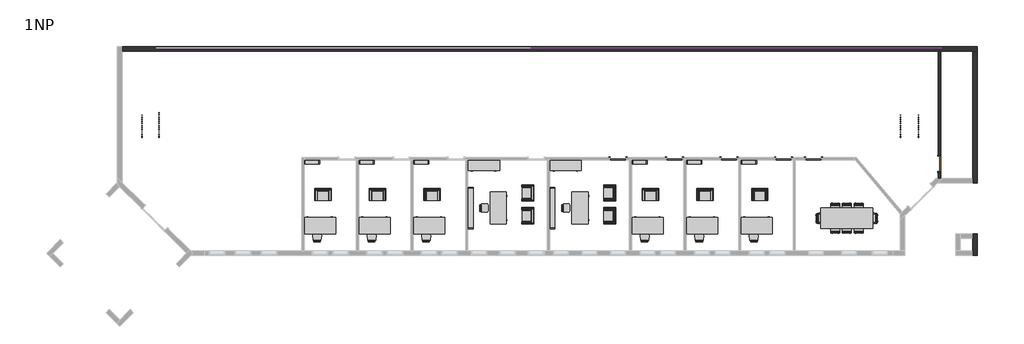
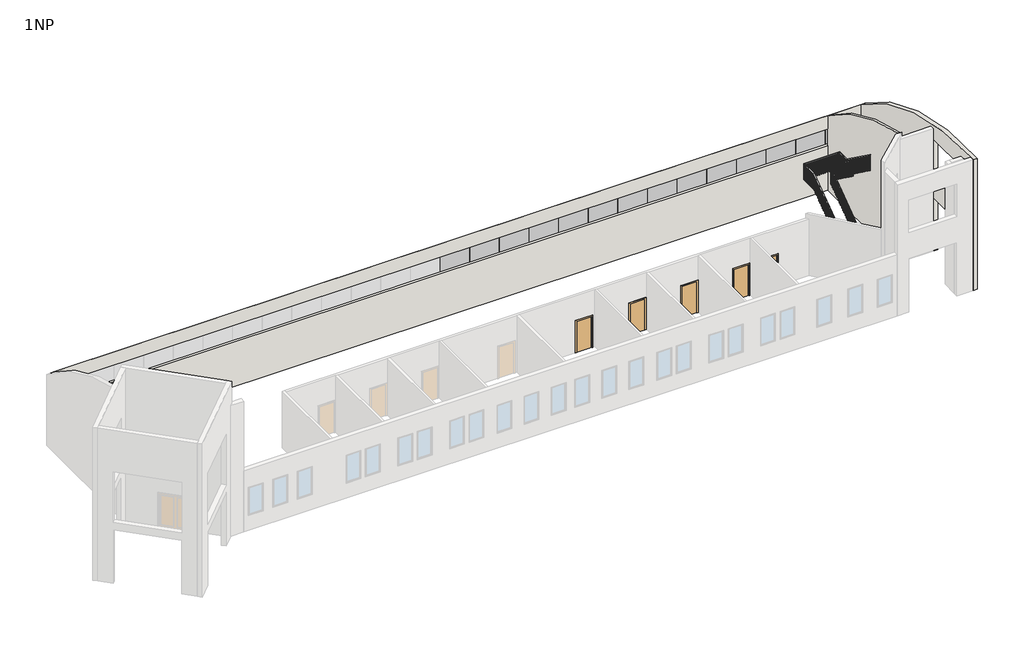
# One storey, part 3 of 3: 45 furniture elements, 14 plates, 6 doors, 4 railings, 3 walls.
"""IFC4 building model written with IfcOpenShell, lengths in millimetres."""

from ifc_helpers import new_model, si_unit, point, frame, frame_2d, origin, place, context, project, spatial, polyline, circle_curve, trimmed, segment, composite_curve, outline, extrude, transform, mapped, element, save
from ifc_brep_helpers import plane_surface, cylinder_surface, advanced_brep
from components import m_single_flush_0915_x_2032mm_1012e85d, m_single_flush_0915_x_2032mm_d7cd756b, chair_desk_4_chair_task_arms_3b363349, chair_desk_5_chair_task_b7f3823b, m_chair_corbu_m_chair_corbu_2764bdef, m_chair_desk_desk_chair_ccc35c8f, m_credenza_1830_x_0610mm_1080a9db, m_desk_1830_x_915mm_d81ff609, m_shelving_0915_x_0254_x_1830mm_1d5e155e, m_shelving_2440_x_0305_x_2134mm_59c1a9e4, table_conference_w_chairs_1200_x_3050mm_930714f4, system_panel_glazed_e7f7cd54, system_panel_glazed_2bdfee25, railing_1100mm_7da75a1e, railing_1100mm_276dff7a, railing_1100mm_749a05fc, railing_1100mm_07c990a1

model = new_model("IFC4")

# Units and contexts
model_context = context("Model", 3, world=origin())
ifc_project = project(units=[si_unit("LENGTHUNIT", "METRE", prefix="MILLI")], contexts=[model_context])

# Site, building, storey
site = spatial("IfcSite", under=ifc_project)
building = spatial("IfcBuilding", under=site)
storey = spatial("IfcBuildingStorey", under=building, Name="1NP", Elevation=0.0)

# Doors
placement = place(None, origin())
m_single_flush_0915_x_2032mm_shape = m_single_flush_0915_x_2032mm_1012e85d(model_context)
element("IfcDoor", 1, ObjectType="M_Single-Flush : 0915 x 2032mm", at=placement, inside=storey, context=model_context, shape_type="MappedRepresentation", body=[
    mapped(m_single_flush_0915_x_2032mm_shape, transform((24162.4255273, 791.5551306, 0.0), x_axis=(1.0, 0.0, 0.0), y_axis=(0.0, 1.0, 0.0), z_axis=(0.0, 0.0, 1.0))),
])
element("IfcDoor", 2, ObjectType="M_Single-Flush : 0915 x 2032mm", at=placement, inside=storey, context=model_context, shape_type="MappedRepresentation", body=[
    mapped(m_single_flush_0915_x_2032mm_shape, transform((27362.4255273, 791.5551306, 0.0), x_axis=(1.0, 0.0, 0.0), y_axis=(0.0, 1.0, 0.0), z_axis=(0.0, 0.0, 1.0))),
])
element("IfcDoor", 3, ObjectType="M_Single-Flush : 0915 x 2032mm", at=placement, inside=storey, context=model_context, shape_type="MappedRepresentation", body=[
    mapped(m_single_flush_0915_x_2032mm_shape, transform((20962.4255273, 791.5551306, 0.0), x_axis=(1.0, 0.0, 0.0), y_axis=(0.0, 1.0, 0.0), z_axis=(0.0, 0.0, 1.0))),
])
element("IfcDoor", 4, ObjectType="M_Single-Flush : 0915 x 2032mm", at=placement, inside=storey, context=model_context, shape_type="MappedRepresentation", body=[
    mapped(m_single_flush_0915_x_2032mm_shape, transform((17662.4255273, 791.5551306, 0.0), x_axis=(1.0, 0.0, 0.0), y_axis=(0.0, 1.0, 0.0), z_axis=(0.0, 0.0, 1.0))),
])
m_single_flush_0915_x_2032mm_2_shape = m_single_flush_0915_x_2032mm_d7cd756b(model_context)
element("IfcDoor", 5, ObjectType="M_Single-Flush : 0915 x 2032mm", at=placement, inside=storey, context=model_context, shape_type="MappedRepresentation", body=[
    mapped(m_single_flush_0915_x_2032mm_2_shape, transform((36489.1755273, 482.5551306, 0.0), x_axis=(0.0, -1.0, 0.0), y_axis=(1.0, 0.0, 0.0), z_axis=(0.0, 0.0, 1.0))),
])
element("IfcDoor", 6, ObjectType="M_Single-Flush : 0915 x 2032mm", at=placement, inside=storey, context=model_context, shape_type="MappedRepresentation", body=[
    mapped(m_single_flush_0915_x_2032mm_2_shape, transform((29115.9255273, 791.5551306, 0.0), x_axis=(-1.0, 0.0, 0.0), y_axis=(0.0, -1.0, 0.0), z_axis=(0.0, 0.0, 1.0))),
])

# Furniture
chair_desk_4_chair_task_arms_shape = chair_desk_4_chair_task_arms_3b363349(model_context)
element("IfcFurniture", 7, ObjectType="Chair - Desk (4) : Chair-Task Arms", at=placement, inside=storey, context=model_context, shape_type="MappedRepresentation", body=[
    mapped(chair_desk_4_chair_task_arms_shape, transform((32615.6301008, -2847.5591131, 0.0), x_axis=(0.0, 1.0, 0.0), y_axis=(-1.0, 0.0, 0.0), z_axis=(0.0, 0.0, 1.0))),
])
element("IfcFurniture", 8, ObjectType="Chair - Desk (4) : Chair-Task Arms", at=placement, inside=storey, context=model_context, shape_type="MappedRepresentation", body=[
    mapped(chair_desk_4_chair_task_arms_shape, transform((29527.7382975, -2565.5774738, 0.0), x_axis=(0.0, -1.0000000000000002, 0.0), y_axis=(1.0000000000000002, 0.0, 0.0), z_axis=(0.0, 0.0, 1.0))),
])
chair_desk_5_chair_task_shape = chair_desk_5_chair_task_b7f3823b(model_context)
element("IfcFurniture", 9, ObjectType="Chair - Desk (5) : Chair-Task", at=placement, inside=storey, context=model_context, shape_type="MappedRepresentation", body=[
    mapped(chair_desk_5_chair_task_shape, transform((31897.6750188, -2087.6223918, 0.0), x_axis=(-1.0, 0.0, 0.0), y_axis=(0.0, -1.0, 0.0), z_axis=(0.0, 0.0, 1.0))),
])
element("IfcFurniture", 10, ObjectType="Chair - Desk (5) : Chair-Task", at=placement, inside=storey, context=model_context, shape_type="MappedRepresentation", body=[
    mapped(chair_desk_5_chair_task_shape, transform((31615.6933794, -3325.5141951, 0.0), x_axis=(1.0, 0.0, 0.0), y_axis=(0.0, 1.0, 0.0), z_axis=(0.0, 0.0, 1.0))),
])
element("IfcFurniture", 11, ObjectType="Chair - Desk (5) : Chair-Task", at=placement, inside=storey, context=model_context, shape_type="MappedRepresentation", body=[
    mapped(chair_desk_5_chair_task_shape, transform((30527.9250188, -2087.6223918, 0.0), x_axis=(-1.0, 0.0, 0.0), y_axis=(0.0, -1.0, 0.0), z_axis=(0.0, 0.0, 1.0))),
])
element("IfcFurniture", 12, ObjectType="Chair - Desk (5) : Chair-Task", at=placement, inside=storey, context=model_context, shape_type="MappedRepresentation", body=[
    mapped(chair_desk_5_chair_task_shape, transform((30245.9433794, -3325.5141951, 0.0), x_axis=(1.0, 0.0, 0.0), y_axis=(0.0, 1.0, 0.0), z_axis=(0.0, 0.0, 1.0))),
])
element("IfcFurniture", 13, ObjectType="Chair - Desk (5) : Chair-Task", at=placement, inside=storey, context=model_context, shape_type="MappedRepresentation", body=[
    mapped(chair_desk_5_chair_task_shape, transform((31212.8000188, -2087.6223918, 0.0), x_axis=(-1.0, 0.0, 0.0), y_axis=(0.0, -1.0, 0.0), z_axis=(0.0, 0.0, 1.0))),
])
element("IfcFurniture", 14, ObjectType="Chair - Desk (5) : Chair-Task", at=placement, inside=storey, context=model_context, shape_type="MappedRepresentation", body=[
    mapped(chair_desk_5_chair_task_shape, transform((30930.8183794, -3325.5141951, 0.0), x_axis=(1.0, 0.0, 0.0), y_axis=(0.0, 1.0, 0.0), z_axis=(0.0, 0.0, 1.0))),
])
m_chair_corbu_m_chair_corbu_shape = m_chair_corbu_m_chair_corbu_2764bdef(model_context)
element("IfcFurniture", 15, ObjectType="M_Chair-Corbu : M_Chair-Corbu", at=placement, inside=storey, context=model_context, shape_type="MappedRepresentation", body=[
    mapped(m_chair_corbu_m_chair_corbu_shape, transform((6189.3517568, -1787.3719186, 0.0), x_axis=(1.0, 0.0, 0.0), y_axis=(0.0, 1.0, 0.0), z_axis=(0.0, 0.0, 1.0))),
])
element("IfcFurniture", 16, ObjectType="M_Chair-Corbu : M_Chair-Corbu", at=placement, inside=storey, context=model_context, shape_type="MappedRepresentation", body=[
    mapped(m_chair_corbu_m_chair_corbu_shape, transform((-210.6482432, -1787.3719186, 0.0), x_axis=(1.0, 0.0, 0.0), y_axis=(0.0, 1.0, 0.0), z_axis=(0.0, 0.0, 1.0))),
])
element("IfcFurniture", 17, ObjectType="M_Chair-Corbu : M_Chair-Corbu", at=placement, inside=storey, context=model_context, shape_type="MappedRepresentation", body=[
    mapped(m_chair_corbu_m_chair_corbu_shape, transform((2989.3517568, -1787.3719186, 0.0), x_axis=(1.0, 0.0, 0.0), y_axis=(0.0, 1.0, 0.0), z_axis=(0.0, 0.0, 1.0))),
])
element("IfcFurniture", 18, ObjectType="M_Chair-Corbu : M_Chair-Corbu", at=placement, inside=storey, context=model_context, shape_type="MappedRepresentation", body=[
    mapped(m_chair_corbu_m_chair_corbu_shape, transform((22189.3517568, -1787.3719186, 0.0), x_axis=(1.0, 0.0, 0.0), y_axis=(0.0, 1.0, 0.0), z_axis=(0.0, 0.0, 1.0))),
])
element("IfcFurniture", 19, ObjectType="M_Chair-Corbu : M_Chair-Corbu", at=placement, inside=storey, context=model_context, shape_type="MappedRepresentation", body=[
    mapped(m_chair_corbu_m_chair_corbu_shape, transform((25389.3517568, -1787.3719186, 0.0), x_axis=(1.0, 0.0, 0.0), y_axis=(0.0, 1.0, 0.0), z_axis=(0.0, 0.0, 1.0))),
])
element("IfcFurniture", 20, ObjectType="M_Chair-Corbu : M_Chair-Corbu", at=placement, inside=storey, context=model_context, shape_type="MappedRepresentation", body=[
    mapped(m_chair_corbu_m_chair_corbu_shape, transform((11895.9484781, -647.2210989, 0.0), x_axis=(0.0, -1.0, 0.0), y_axis=(1.0, 0.0, 0.0), z_axis=(0.0, 0.0, 1.0))),
])
element("IfcFurniture", 21, ObjectType="M_Chair-Corbu : M_Chair-Corbu", at=placement, inside=storey, context=model_context, shape_type="MappedRepresentation", body=[
    mapped(m_chair_corbu_m_chair_corbu_shape, transform((18989.3517568, -1787.3719186, 0.0), x_axis=(1.0, 0.0, 0.0), y_axis=(0.0, 1.0, 0.0), z_axis=(0.0, 0.0, 1.0))),
])
element("IfcFurniture", 22, ObjectType="M_Chair-Corbu : M_Chair-Corbu", at=placement, inside=storey, context=model_context, shape_type="MappedRepresentation", body=[
    mapped(m_chair_corbu_m_chair_corbu_shape, transform((11895.9484781, -1992.4210989, 0.0), x_axis=(0.0, -1.0, 0.0), y_axis=(1.0, 0.0, 0.0), z_axis=(0.0, 0.0, 1.0))),
])
element("IfcFurniture", 23, ObjectType="M_Chair-Corbu : M_Chair-Corbu", at=placement, inside=storey, context=model_context, shape_type="MappedRepresentation", body=[
    mapped(m_chair_corbu_m_chair_corbu_shape, transform((16695.9484781, -647.2210989, 0.0), x_axis=(0.0, -1.0, 0.0), y_axis=(1.0, 0.0, 0.0), z_axis=(0.0, 0.0, 1.0))),
])
element("IfcFurniture", 24, ObjectType="M_Chair-Corbu : M_Chair-Corbu", at=placement, inside=storey, context=model_context, shape_type="MappedRepresentation", body=[
    mapped(m_chair_corbu_m_chair_corbu_shape, transform((16695.9484781, -1992.4210989, 0.0), x_axis=(0.0, -1.0, 0.0), y_axis=(1.0, 0.0, 0.0), z_axis=(0.0, 0.0, 1.0))),
])
m_chair_desk_desk_chair_shape = m_chair_desk_desk_chair_ccc35c8f(model_context)
element("IfcFurniture", 25, ObjectType="M_Chair-Desk : Desk Chair", at=placement, inside=storey, context=model_context, shape_type="MappedRepresentation", body=[
    mapped(m_chair_desk_desk_chair_shape, transform((19.9255273, -4017.6948694, 0.0), x_axis=(1.0, 0.0, 0.0), y_axis=(0.0, 1.0, 0.0), z_axis=(0.0, 0.0, 1.0))),
])
element("IfcFurniture", 26, ObjectType="M_Chair-Desk : Desk Chair", at=placement, inside=storey, context=model_context, shape_type="MappedRepresentation", body=[
    mapped(m_chair_desk_desk_chair_shape, transform((3219.9255273, -4017.6948694, 0.0), x_axis=(1.0, 0.0, 0.0), y_axis=(0.0, 1.0, 0.0), z_axis=(0.0, 0.0, 1.0))),
])
element("IfcFurniture", 27, ObjectType="M_Chair-Desk : Desk Chair", at=placement, inside=storey, context=model_context, shape_type="MappedRepresentation", body=[
    mapped(m_chair_desk_desk_chair_shape, transform((6419.9255273, -4017.6948694, 0.0), x_axis=(1.0, 0.0, 0.0), y_axis=(0.0, 1.0, 0.0), z_axis=(0.0, 0.0, 1.0))),
])
element("IfcFurniture", 28, ObjectType="M_Chair-Desk : Desk Chair", at=placement, inside=storey, context=model_context, shape_type="MappedRepresentation", body=[
    mapped(m_chair_desk_desk_chair_shape, transform((22419.9255273, -4017.6948694, 0.0), x_axis=(1.0, 0.0, 0.0), y_axis=(0.0, 1.0, 0.0), z_axis=(0.0, 0.0, 1.0))),
])
element("IfcFurniture", 29, ObjectType="M_Chair-Desk : Desk Chair", at=placement, inside=storey, context=model_context, shape_type="MappedRepresentation", body=[
    mapped(m_chair_desk_desk_chair_shape, transform((25619.9255273, -4017.6948694, 0.0), x_axis=(1.0, 0.0, 0.0), y_axis=(0.0, 1.0, 0.0), z_axis=(0.0, 0.0, 1.0))),
])
element("IfcFurniture", 30, ObjectType="M_Chair-Desk : Desk Chair", at=placement, inside=storey, context=model_context, shape_type="MappedRepresentation", body=[
    mapped(m_chair_desk_desk_chair_shape, transform((9635.1978774, -2107.9948694, 0.0), x_axis=(0.0, -1.0, 0.0), y_axis=(1.0, 0.0, 0.0), z_axis=(0.0, 0.0, 1.0))),
])
element("IfcFurniture", 31, ObjectType="M_Chair-Desk : Desk Chair", at=placement, inside=storey, context=model_context, shape_type="MappedRepresentation", body=[
    mapped(m_chair_desk_desk_chair_shape, transform((19219.9255273, -4017.6948694, 0.0), x_axis=(1.0, 0.0, 0.0), y_axis=(0.0, 1.0, 0.0), z_axis=(0.0, 0.0, 1.0))),
])
element("IfcFurniture", 32, ObjectType="M_Chair-Desk : Desk Chair", at=placement, inside=storey, context=model_context, shape_type="MappedRepresentation", body=[
    mapped(m_chair_desk_desk_chair_shape, transform((14435.1978774, -2107.9948694, 0.0), x_axis=(0.0, -1.0, 0.0), y_axis=(1.0, 0.0, 0.0), z_axis=(0.0, 0.0, 1.0))),
])
m_credenza_1830_x_0610mm_shape = m_credenza_1830_x_0610mm_1080a9db(model_context)
element("IfcFurniture", 33, ObjectType="M_Credenza : 1830 x 0610mm", at=placement, inside=storey, context=model_context, shape_type="MappedRepresentation", body=[
    mapped(m_credenza_1830_x_0610mm_shape, transform((9713.881265, 412.7248027, 0.0), x_axis=(1.0, 0.0, 0.0), y_axis=(0.0, 1.0, 0.0), z_axis=(0.0, 0.0, 1.0))),
])
element("IfcFurniture", 34, ObjectType="M_Credenza : 1830 x 0610mm", at=placement, inside=storey, context=model_context, shape_type="MappedRepresentation", body=[
    mapped(m_credenza_1830_x_0610mm_shape, transform((14513.881265, 412.7248027, 0.0), x_axis=(1.0, 0.0, 0.0), y_axis=(0.0, 1.0, 0.0), z_axis=(0.0, 0.0, 1.0))),
])
m_desk_1830_x_915mm_shape = m_desk_1830_x_915mm_d81ff609(model_context)
element("IfcFurniture", 35, ObjectType="M_Desk : 1830 x 915mm", at=placement, inside=storey, context=model_context, shape_type="MappedRepresentation", body=[
    mapped(m_desk_1830_x_915mm_shape, transform((-741.5744727, -3592.6948694, 0.0), x_axis=(1.0, 0.0, 0.0), y_axis=(0.0, 1.0, 0.0), z_axis=(0.0, 0.0, 1.0))),
])
element("IfcFurniture", 36, ObjectType="M_Desk : 1830 x 915mm", at=placement, inside=storey, context=model_context, shape_type="MappedRepresentation", body=[
    mapped(m_desk_1830_x_915mm_shape, transform((2458.4255273, -3592.6948694, 0.0), x_axis=(1.0, 0.0, 0.0), y_axis=(0.0, 1.0, 0.0), z_axis=(0.0, 0.0, 1.0))),
])
element("IfcFurniture", 37, ObjectType="M_Desk : 1830 x 915mm", at=placement, inside=storey, context=model_context, shape_type="MappedRepresentation", body=[
    mapped(m_desk_1830_x_915mm_shape, transform((5658.4255273, -3592.6948694, 0.0), x_axis=(1.0, 0.0, 0.0), y_axis=(0.0, 1.0, 0.0), z_axis=(0.0, 0.0, 1.0))),
])
element("IfcFurniture", 38, ObjectType="M_Desk : 1830 x 915mm", at=placement, inside=storey, context=model_context, shape_type="MappedRepresentation", body=[
    mapped(m_desk_1830_x_915mm_shape, transform((21658.4255273, -3592.6948694, 0.0), x_axis=(1.0, 0.0, 0.0), y_axis=(0.0, 1.0, 0.0), z_axis=(0.0, 0.0, 1.0))),
])
element("IfcFurniture", 39, ObjectType="M_Desk : 1830 x 915mm", at=placement, inside=storey, context=model_context, shape_type="MappedRepresentation", body=[
    mapped(m_desk_1830_x_915mm_shape, transform((24858.4255273, -3592.6948694, 0.0), x_axis=(1.0, 0.0, 0.0), y_axis=(0.0, 1.0, 0.0), z_axis=(0.0, 0.0, 1.0))),
])
element("IfcFurniture", 40, ObjectType="M_Desk : 1830 x 915mm", at=placement, inside=storey, context=model_context, shape_type="MappedRepresentation", body=[
    mapped(m_desk_1830_x_915mm_shape, transform((10176.162903, -1192.9948694, 0.0), x_axis=(0.0, -1.0, 0.0), y_axis=(1.0, 0.0, 0.0), z_axis=(0.0, 0.0, 1.0))),
])
element("IfcFurniture", 41, ObjectType="M_Desk : 1830 x 915mm", at=placement, inside=storey, context=model_context, shape_type="MappedRepresentation", body=[
    mapped(m_desk_1830_x_915mm_shape, transform((18458.4255273, -3592.6948694, 0.0), x_axis=(1.0, 0.0, 0.0), y_axis=(0.0, 1.0, 0.0), z_axis=(0.0, 0.0, 1.0))),
])
element("IfcFurniture", 42, ObjectType="M_Desk : 1830 x 915mm", at=placement, inside=storey, context=model_context, shape_type="MappedRepresentation", body=[
    mapped(m_desk_1830_x_915mm_shape, transform((14976.162903, -1192.9948694, 0.0), x_axis=(0.0, -1.0, 0.0), y_axis=(1.0, 0.0, 0.0), z_axis=(0.0, 0.0, 1.0))),
])
m_shelving_0915_x_0254_x_1830mm_shape = m_shelving_0915_x_0254_x_1830mm_1d5e155e(model_context)
element("IfcFurniture", 43, ObjectType="M_Shelving : 0915 x 0254 x 1830mm", at=placement, inside=storey, context=model_context, shape_type="MappedRepresentation", body=[
    mapped(m_shelving_0915_x_0254_x_1830mm_shape, transform((-284.0744727, 290.5051306, 0.0), x_axis=(-1.0, 0.0, 0.0), y_axis=(0.0, -1.0, 0.0), z_axis=(0.0, 0.0, 1.0))),
])
element("IfcFurniture", 44, ObjectType="M_Shelving : 0915 x 0254 x 1830mm", at=placement, inside=storey, context=model_context, shape_type="MappedRepresentation", body=[
    mapped(m_shelving_0915_x_0254_x_1830mm_shape, transform((2915.9255273, 290.5051306, 0.0), x_axis=(-1.0, 0.0, 0.0), y_axis=(0.0, -1.0, 0.0), z_axis=(0.0, 0.0, 1.0))),
])
element("IfcFurniture", 45, ObjectType="M_Shelving : 0915 x 0254 x 1830mm", at=placement, inside=storey, context=model_context, shape_type="MappedRepresentation", body=[
    mapped(m_shelving_0915_x_0254_x_1830mm_shape, transform((6115.9255273, 290.5051306, 0.0), x_axis=(-1.0, 0.0, 0.0), y_axis=(0.0, -1.0, 0.0), z_axis=(0.0, 0.0, 1.0))),
])
element("IfcFurniture", 46, ObjectType="M_Shelving : 0915 x 0254 x 1830mm", at=placement, inside=storey, context=model_context, shape_type="MappedRepresentation", body=[
    mapped(m_shelving_0915_x_0254_x_1830mm_shape, transform((22115.9255273, 290.5051306, 0.0), x_axis=(-1.0, 0.0, 0.0), y_axis=(0.0, -1.0, 0.0), z_axis=(0.0, 0.0, 1.0))),
])
element("IfcFurniture", 47, ObjectType="M_Shelving : 0915 x 0254 x 1830mm", at=placement, inside=storey, context=model_context, shape_type="MappedRepresentation", body=[
    mapped(m_shelving_0915_x_0254_x_1830mm_shape, transform((25315.9255273, 290.5051306, 0.0), x_axis=(-1.0, 0.0, 0.0), y_axis=(0.0, -1.0, 0.0), z_axis=(0.0, 0.0, 1.0))),
])
element("IfcFurniture", 48, ObjectType="M_Shelving : 0915 x 0254 x 1830mm", at=placement, inside=storey, context=model_context, shape_type="MappedRepresentation", body=[
    mapped(m_shelving_0915_x_0254_x_1830mm_shape, transform((18915.9255273, 290.5051306, 0.0), x_axis=(-1.0, 0.0, 0.0), y_axis=(0.0, -1.0, 0.0), z_axis=(0.0, 0.0, 1.0))),
])
m_shelving_2440_x_0305_x_2134mm_shape = m_shelving_2440_x_0305_x_2134mm_59c1a9e4(model_context)
element("IfcFurniture", 49, ObjectType="M_Shelving : 2440 x 0305 x 2134mm", at=placement, inside=storey, context=model_context, shape_type="MappedRepresentation", body=[
    mapped(m_shelving_2440_x_0305_x_2134mm_shape, transform((9315.7255273, -2107.9948694, 0.0), x_axis=(0.0, -1.0, 0.0), y_axis=(1.0, 0.0, 0.0), z_axis=(0.0, 0.0, 1.0))),
])
element("IfcFurniture", 50, ObjectType="M_Shelving : 2440 x 0305 x 2134mm", at=placement, inside=storey, context=model_context, shape_type="MappedRepresentation", body=[
    mapped(m_shelving_2440_x_0305_x_2134mm_shape, transform((14115.7255273, -2107.9948694, 0.0), x_axis=(0.0, -1.0, 0.0), y_axis=(1.0, 0.0, 0.0), z_axis=(0.0, 0.0, 1.0))),
])
table_conference_w_chairs_1200_x_3050mm_shape = table_conference_w_chairs_1200_x_3050mm_930714f4(model_context)
element("IfcFurniture", 51, ObjectType="Table - Conference w Chairs : 1200 x 3050mm", at=placement, inside=storey, context=model_context, shape_type="MappedRepresentation", body=[
    mapped(table_conference_w_chairs_1200_x_3050mm_shape, transform((31071.6841991, -2706.5682935, 0.0), x_axis=(-1.0, 0.0, 0.0), y_axis=(0.0, -1.0, 0.0), z_axis=(0.0, 0.0, 1.0))),
])

# Plates
system_panel_glazed_shape = system_panel_glazed_e7f7cd54(model_context)
element("IfcPlate", 52, ObjectType="System Panel : Glazed", at=placement, inside=storey, context=model_context, shape_type="MappedRepresentation", body=[
    mapped(system_panel_glazed_shape, transform((13464.1755273, 7241.5551306, 2916.2475184), x_axis=(1.0, 0.0, 0.0), y_axis=(0.0, 1.0, 0.0), z_axis=(0.0, 0.0, 1.0))),
])
element("IfcPlate", 53, ObjectType="System Panel : Glazed", at=placement, inside=storey, context=model_context, shape_type="MappedRepresentation", body=[
    mapped(system_panel_glazed_shape, transform((15294.1755273, 7241.5551306, 2916.2475184), x_axis=(1.0, 0.0, 0.0), y_axis=(0.0, 1.0, 0.0), z_axis=(0.0, 0.0, 1.0))),
])
element("IfcPlate", 54, ObjectType="System Panel : Glazed", at=placement, inside=storey, context=model_context, shape_type="MappedRepresentation", body=[
    mapped(system_panel_glazed_shape, transform((17124.1755273, 7241.5551306, 2916.2475184), x_axis=(1.0, 0.0, 0.0), y_axis=(0.0, 1.0, 0.0), z_axis=(0.0, 0.0, 1.0))),
])
element("IfcPlate", 55, ObjectType="System Panel : Glazed", at=placement, inside=storey, context=model_context, shape_type="MappedRepresentation", body=[
    mapped(system_panel_glazed_shape, transform((18954.1755273, 7241.5551306, 2916.2475184), x_axis=(1.0, 0.0, 0.0), y_axis=(0.0, 1.0, 0.0), z_axis=(0.0, 0.0, 1.0))),
])
element("IfcPlate", 56, ObjectType="System Panel : Glazed", at=placement, inside=storey, context=model_context, shape_type="MappedRepresentation", body=[
    mapped(system_panel_glazed_shape, transform((20784.1755273, 7241.5551306, 2916.2475184), x_axis=(1.0, 0.0, 0.0), y_axis=(0.0, 1.0, 0.0), z_axis=(0.0, 0.0, 1.0))),
])
element("IfcPlate", 57, ObjectType="System Panel : Glazed", at=placement, inside=storey, context=model_context, shape_type="MappedRepresentation", body=[
    mapped(system_panel_glazed_shape, transform((22614.1755273, 7241.5551306, 2916.2475184), x_axis=(1.0, 0.0, 0.0), y_axis=(0.0, 1.0, 0.0), z_axis=(0.0, 0.0, 1.0))),
])
element("IfcPlate", 58, ObjectType="System Panel : Glazed", at=placement, inside=storey, context=model_context, shape_type="MappedRepresentation", body=[
    mapped(system_panel_glazed_shape, transform((24444.1755273, 7241.5551306, 2916.2475184), x_axis=(1.0, 0.0, 0.0), y_axis=(0.0, 1.0, 0.0), z_axis=(0.0, 0.0, 1.0))),
])
element("IfcPlate", 59, ObjectType="System Panel : Glazed", at=placement, inside=storey, context=model_context, shape_type="MappedRepresentation", body=[
    mapped(system_panel_glazed_shape, transform((26274.1755273, 7241.5551306, 2916.2475184), x_axis=(1.0, 0.0, 0.0), y_axis=(0.0, 1.0, 0.0), z_axis=(0.0, 0.0, 1.0))),
])
element("IfcPlate", 60, ObjectType="System Panel : Glazed", at=placement, inside=storey, context=model_context, shape_type="MappedRepresentation", body=[
    mapped(system_panel_glazed_shape, transform((28104.1755273, 7241.5551306, 2916.2475184), x_axis=(1.0, 0.0, 0.0), y_axis=(0.0, 1.0, 0.0), z_axis=(0.0, 0.0, 1.0))),
])
element("IfcPlate", 61, ObjectType="System Panel : Glazed", at=placement, inside=storey, context=model_context, shape_type="MappedRepresentation", body=[
    mapped(system_panel_glazed_shape, transform((29934.1755273, 7241.5551306, 2916.2475184), x_axis=(1.0, 0.0, 0.0), y_axis=(0.0, 1.0, 0.0), z_axis=(0.0, 0.0, 1.0))),
])
element("IfcPlate", 62, ObjectType="System Panel : Glazed", at=placement, inside=storey, context=model_context, shape_type="MappedRepresentation", body=[
    mapped(system_panel_glazed_shape, transform((31764.1755273, 7241.5551306, 2916.2475184), x_axis=(1.0, 0.0, 0.0), y_axis=(0.0, 1.0, 0.0), z_axis=(0.0, 0.0, 1.0))),
])
element("IfcPlate", 63, ObjectType="System Panel : Glazed", at=placement, inside=storey, context=model_context, shape_type="MappedRepresentation", body=[
    mapped(system_panel_glazed_shape, transform((33594.1755273, 7241.5551306, 2916.2475184), x_axis=(1.0, 0.0, 0.0), y_axis=(0.0, 1.0, 0.0), z_axis=(0.0, 0.0, 1.0))),
])
element("IfcPlate", 64, ObjectType="System Panel : Glazed", at=placement, inside=storey, context=model_context, shape_type="MappedRepresentation", body=[
    mapped(system_panel_glazed_shape, transform((35424.1755273, 7241.5551306, 2916.2475184), x_axis=(1.0, 0.0, 0.0), y_axis=(0.0, 1.0, 0.0), z_axis=(0.0, 0.0, 1.0))),
])
system_panel_glazed_2_shape = system_panel_glazed_2bdfee25(model_context)
element("IfcPlate", 65, ObjectType="System Panel : Glazed", at=placement, inside=storey, context=model_context, shape_type="MappedRepresentation", body=[
    mapped(system_panel_glazed_2_shape, transform((36464.1755273, 7241.5551306, 2916.2475184), x_axis=(1.0, 0.0, 0.0), y_axis=(0.0, 1.0, 0.0), z_axis=(0.0, 0.0, 1.0))),
])

# Railings
railing_1100mm_shape = railing_1100mm_7da75a1e(model_context)
element("IfcRailing", 66, ObjectType="1100mm", at=placement, inside=storey, context=model_context, shape_type="MappedRepresentation", body=[
    mapped(railing_1100mm_shape, transform((0.0, 0.0, 0.0), x_axis=(1.0, 0.0, 0.0), y_axis=(0.0, 1.0, 0.0), z_axis=(0.0, 0.0, 1.0))),
])
railing_1100mm_2_shape = railing_1100mm_276dff7a(model_context)
element("IfcRailing", 67, ObjectType="1100mm", at=placement, inside=storey, context=model_context, shape_type="MappedRepresentation", body=[
    mapped(railing_1100mm_2_shape, transform((0.0, 0.0, 0.0), x_axis=(1.0, 0.0, 0.0), y_axis=(0.0, 1.0, 0.0), z_axis=(0.0, 0.0, 1.0))),
])
railing_1100mm_3_shape = railing_1100mm_749a05fc(model_context)
element("IfcRailing", 68, ObjectType="1100mm", at=placement, inside=storey, context=model_context, shape_type="MappedRepresentation", body=[
    mapped(railing_1100mm_3_shape, transform((0.0, 0.0, 0.0), x_axis=(1.0, 0.0, 0.0), y_axis=(0.0, 1.0, 0.0), z_axis=(0.0, 0.0, 1.0))),
])
railing_1100mm_4_shape = railing_1100mm_07c990a1(model_context)
element("IfcRailing", 69, ObjectType="1100mm", at=placement, inside=storey, context=model_context, shape_type="MappedRepresentation", body=[
    mapped(railing_1100mm_4_shape, transform((0.0, 0.0, 0.0), x_axis=(1.0, 0.0, 0.0), y_axis=(0.0, 1.0, 0.0), z_axis=(0.0, 0.0, 1.0))),
])

# Walls
element("IfcWall", 70, ObjectType="Exterior - EIFS on Mtl. Stud", at=placement, inside=storey, context=model_context, shape_type="AdvancedBrep", body=[
    advanced_brep(
    [(-11410.8244727, 7108.0551306, 0.0), (36419.9255273, 7108.0551306, 0.0), (36558.4255273, 7108.0551306, 0.0), (38455.6755273, 7108.0551306, 0.0), (38722.6755273, 7108.0551306, 0.0), (38722.6755273, 7108.0551306, 4858.4183068), (38455.6755273, 7108.0551306, 4858.4183068), (36558.4255273, 7108.0551306, 4858.4183068), (36419.9255273, 7108.0551306, 4858.4183068), (-11410.8244727, 7108.0551306, 4858.4183068), (-9410.8244727, 7108.0551306, 2916.2475184), (-9410.8244727, 7108.0551306, 4000.0), (36589.1755273, 7108.0551306, 4000.0), (36589.1755273, 7108.0551306, 2916.2475184), (38722.6755273, 7375.0551306, 0.0), (-11410.8244727, 7375.0551306, 0.0), (-11410.8244727, 7375.0551306, 4647.9646014), (38722.6755273, 7375.0551306, 4647.9646014), (-9410.8244727, 7375.0551306, 4000.0), (-9410.8244727, 7375.0551306, 2916.2475184), (36589.1755273, 7375.0551306, 2916.2475184), (36589.1755273, 7375.0551306, 4000.0)],
    [
        (0, 1),
        (1, 2),
        (2, 3),
        (3, 4),
        (4, 5),
        (5, 6),
        (6, 7),
        (7, 8),
        (8, 9),
        (9, 0),
        (10, 11),
        (11, 12),
        (12, 13),
        (13, 10),
        (14, 15),
        (15, 16),
        (16, 17),
        (17, 14),
        (18, 19),
        (19, 20),
        (20, 21),
        (21, 18),
        (0, 15),
        (14, 4),
        (17, 5, circle_curve(frame((38722.6755273, -3782.5530793, -9232.9575956), z_axis=(1.0, 0.0, 0.0), x_axis=(0.0, -1.0, 0.0)), 17809.3296337)),
        (9, 16, circle_curve(frame((-11410.8244727, -3782.5530793, -9232.9575956), z_axis=(-1.0, 0.0, 0.0), x_axis=(0.0, -1.0, 0.0)), 17809.3296337)),
        (10, 19),
        (18, 11),
        (21, 12),
        (20, 13),
    ],
    [
        plane_surface(frame((-5544.3244727, 7108.0551306, 0.0), z_axis=(0.0, -1.0, 0.0), x_axis=(1.0, 0.0, 0.0))),
        plane_surface(frame((-5544.3244727, 7375.0551306, 0.0), z_axis=(0.0, 1.0, 0.0), x_axis=(-1.0, 0.0, 0.0))),
        plane_surface(frame((-11544.3244727, 7108.0551306, 0.0), z_axis=(0.0, 0.0, -1.0), x_axis=(0.0, 1.0, 0.0))),
        plane_surface(frame((38722.6755273, 5741.5551306, 0.0), z_axis=(1.0, 0.0, 0.0), x_axis=(0.0, 1.0, 0.0))),
        plane_surface(frame((-11410.8244727, -6258.4448694, 0.0), z_axis=(-1.0, 0.0, 0.0), x_axis=(0.0, 1.0, 0.0))),
        cylinder_surface(frame((39922.6755273, -3782.5530793, -9232.9575956), z_axis=(1.0, 0.0, 0.0), x_axis=(0.0, -1.0, 0.0)), 17809.3296337),
        plane_surface(frame((-9410.8244727, 7527.4551306, 2916.2475184), z_axis=(1.0, 0.0, 0.0), x_axis=(0.0, -1.0, 0.0))),
        plane_surface(frame((-9410.8244727, 7527.4551306, 4000.0), z_axis=(0.0, 0.0, -1.0), x_axis=(0.0, -1.0, 0.0))),
        plane_surface(frame((36589.1755273, 7527.4551306, 4000.0), z_axis=(-1.0, 0.0, 0.0), x_axis=(0.0, -1.0, 0.0))),
        plane_surface(frame((36589.1755273, 7527.4551306, 2916.2475184), z_axis=(0.0, 0.0, 1.0), x_axis=(0.0, -1.0, 0.0))),
    ],
    [
        (0, [[1, 2, 3, 4, 5, 6, 7, 8, 9, 10], [11, 12, 13, 14]]),
        (1, [[15, 16, 17, 18], [19, 20, 21, 22]]),
        (2, [[-4, -3, -2, -1, 23, -15, 24]]),
        (3, [[-5, -24, -18, 25]]),
        (4, [[-10, 26, -16, -23]]),
        (5, [[-9, -8, -7, -6, -25, -17, -26]]),
        (6, [[27, -19, 28, -11]]),
        (7, [[-28, -22, 29, -12]]),
        (8, [[-29, -21, 30, -13]]),
        (9, [[-27, -14, -30, -20]]),
    ],
),
])
element("IfcWall", 71, ObjectType="Exterior - EIFS on Mtl. Stud", at=placement, inside=storey, context=model_context, shape_type="AdvancedBrep", body=[
    advanced_brep(
    [(38455.6755273, 7108.0551306, 0.0), (38455.6755273, -374.9448694, 0.0), (38455.6755273, -641.9448694, 0.0), (38455.6755273, -641.9448694, 3500.0), (38455.6755273, -3624.9448694, 3500.0), (38455.6755273, -3624.9448694, 0.0), (38455.6755273, -3891.9448694, 0.0), (38455.6755273, -4624.9448694, 0.0), (38455.6755273, -4891.9448694, 0.0), (38455.6755273, -4891.9448694, 8541.7849302), (38455.6755273, -4624.9249558, 8556.4388364), (38455.6755273, 7108.0551306, 4858.4183068), (38455.6755273, -641.9448694, 5200.0), (38455.6755273, -641.9448694, 7300.0), (38455.6755273, -3624.9448694, 7300.0), (38455.6755273, -3624.9448694, 5200.0), (38722.6755273, 7108.0551306, 0.0), (38722.6755273, 7108.0551306, 4858.4183068), (38722.6755273, -4891.9448694, 8541.7849302), (38722.6755273, -4891.9448694, 0.0), (38722.6755273, -3624.9448694, 0.0), (38722.6755273, -3624.9448694, 3500.0), (38722.6755273, -641.9448694, 3500.0), (38722.6755273, -641.9448694, 0.0), (38722.6755273, -641.9448694, 5200.0), (38722.6755273, -3624.9448694, 5200.0), (38722.6755273, -3624.9448694, 7300.0), (38722.6755273, -641.9448694, 7300.0)],
    [
        (0, 1),
        (1, 2),
        (2, 3),
        (3, 4),
        (4, 5),
        (5, 6),
        (6, 7),
        (7, 8),
        (8, 9),
        (9, 10, circle_curve(frame((38455.6755273, -3782.5530793, -9232.9575956), z_axis=(-1.0, 0.0, 0.0), x_axis=(0.0, -1.0, 0.0)), 17809.3296337)),
        (10, 11, circle_curve(frame((38455.6755273, -3782.5530793, -9232.9575956), z_axis=(-1.0, 0.0, 0.0), x_axis=(0.0, -1.0, 0.0)), 17809.3294594)),
        (11, 0),
        (12, 13),
        (13, 14),
        (14, 15),
        (15, 12),
        (16, 17),
        (17, 18, circle_curve(frame((38722.6755273, -3782.5530793, -9232.9575956), z_axis=(1.0, 0.0, 0.0), x_axis=(0.0, -1.0, 0.0)), 17809.3296337)),
        (18, 19),
        (19, 20),
        (20, 21),
        (21, 22),
        (22, 23),
        (23, 16),
        (24, 25),
        (25, 26),
        (26, 27),
        (27, 24),
        (0, 16),
        (23, 2),
        (3, 22),
        (21, 4),
        (5, 20),
        (19, 8),
        (13, 27),
        (26, 14),
        (15, 25),
        (24, 12),
        (18, 9),
        (11, 17),
    ],
    [
        plane_surface(frame((38455.6755273, 5741.5551306, 0.0), z_axis=(-1.0, 0.0, 0.0), x_axis=(0.0, -1.0, 0.0))),
        plane_surface(frame((38722.6755273, 5741.5551306, 0.0), z_axis=(1.0, 0.0, 0.0), x_axis=(0.0, 1.0, 0.0))),
        plane_surface(frame((38455.6755273, 7241.5551306, 0.0), z_axis=(0.0, 0.0, -1.0), x_axis=(1.0, 0.0, 0.0))),
        plane_surface(frame((38455.6755273, -508.4448694, 3500.0), z_axis=(0.0, 0.0, -1.0), x_axis=(1.0, 0.0, 0.0))),
        plane_surface(frame((38455.6755273, -3758.4448694, 0.0), z_axis=(0.0, 0.0, -1.0), x_axis=(1.0, 0.0, 0.0))),
        plane_surface(frame((38455.6755273, -508.4448694, 7300.0), z_axis=(0.0, 0.0, -1.0), x_axis=(1.0, 0.0, 0.0))),
        plane_surface(frame((38455.6755273, -3758.4448694, 5200.0), z_axis=(0.0, 0.0, 1.0), x_axis=(1.0, 0.0, 0.0))),
        plane_surface(frame((12455.6755273, -4891.9448694, 0.0), z_axis=(0.0, -1.0, 0.0), x_axis=(1.0, 0.0, 0.0))),
        plane_surface(frame((-5544.3244727, 7108.0551306, 0.0), z_axis=(0.0, 1.0, 0.0), x_axis=(1.0, 0.0, 0.0))),
        plane_surface(frame((38455.6755273, -641.9448694, 0.0), z_axis=(0.0, -1.0, 0.0), x_axis=(1.0, 0.0, 0.0))),
        plane_surface(frame((37555.6755273, -3624.9448694, 0.0), z_axis=(0.0, 1.0, 0.0), x_axis=(-1.0, 0.0, 0.0))),
        cylinder_surface(frame((39922.6755273, -3782.5530793, -9232.9575956), z_axis=(1.0, 0.0, 0.0), x_axis=(0.0, -1.0, 0.0)), 17809.3296337),
    ],
    [
        (0, [[1, 2, 3, 4, 5, 6, 7, 8, 9, 10, 11, 12], [13, 14, 15, 16]]),
        (1, [[17, 18, 19, 20, 21, 22, 23, 24], [25, 26, 27, 28]]),
        (2, [[-2, -1, 29, -24, 30]]),
        (3, [[-4, 31, -22, 32]]),
        (4, [[-8, -7, -6, 33, -20, 34]]),
        (5, [[-14, 35, -27, 36]]),
        (6, [[-16, 37, -25, 38]]),
        (7, [[-9, -34, -19, 39]]),
        (8, [[-12, 40, -17, -29]]),
        (9, [[-3, -30, -23, -31]]),
        (9, [[-13, -38, -28, -35]]),
        (10, [[-5, -32, -21, -33]]),
        (10, [[-15, -36, -26, -37]]),
        (11, [[-11, -10, -39, -18, -40]]),
    ],
),
])
element("IfcWall", 72, ObjectType="Interior - 138mm Partition (1-hr)", at=placement, inside=storey, context=model_context, shape_type="SweptSolid", body=[
    extrude(outline(composite_curve([segment(polyline([(25.0551306, 2032.0), (25.0551306, 0.0), (-374.9448694, 0.0), (-374.9448694, 8247.3292525)]), True, "CONTINUOUS"), segment(trimmed(circle_curve(frame_2d((-3782.5530793, -9232.9575956)), 17809.3296337), [point((-374.9448694, 8247.3292525))], [point((7108.0551306, 4858.4183068))], False, "CARTESIAN"), True, "CONTINUOUS"), segment(polyline([(7108.0551306, 4858.4183068), (7108.0551306, 0.0), (940.0551306, 0.0), (940.0551306, 2032.0), (25.0551306, 2032.0)]), True, "CONTINUOUS")], self_intersect=False)), frame((36419.9255273, 0.0, 0.0), z_axis=(1.0, 0.0, 0.0), x_axis=(0.0, 1.0, 0.0)), (0.0, 0.0, 1.0), 138.5),
])

save(model, "model.ifc")
